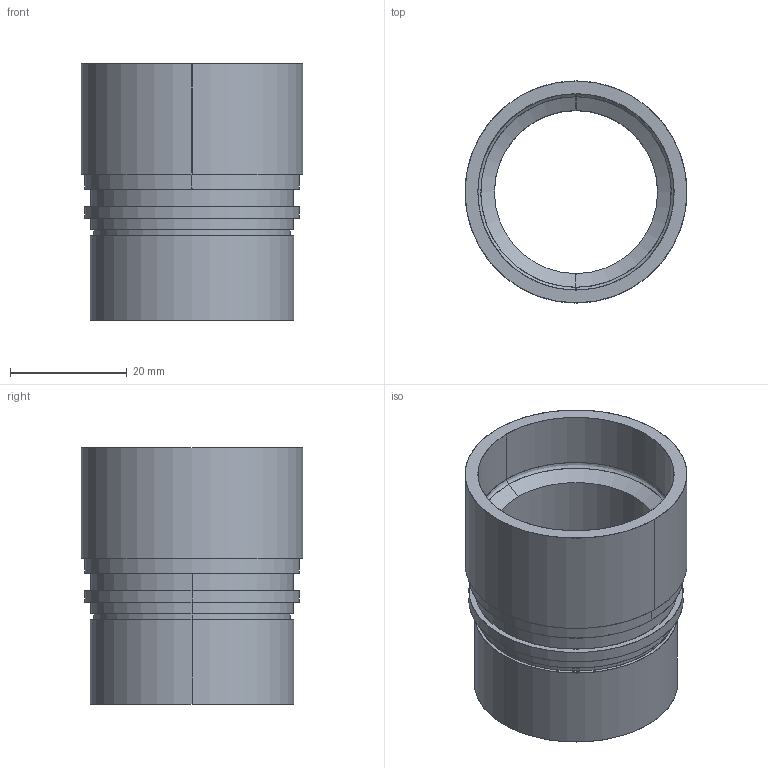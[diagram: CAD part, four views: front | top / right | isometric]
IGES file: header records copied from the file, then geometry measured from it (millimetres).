
Start section: SolidWorks IGES file using analytic representation for surfaces
Global section: file name: Part21^70-31.8R38.1-PH.IGS; native system: SolidWorks 2012; preprocessor: SolidWorks 2012; author: harada; date: 130902.102030; units: millimetre
Bounding box: 38.1 x 38.1 x 44 mm (x, y, z)
Surface area: 10484.9 mm2 (no closed solid volume)
Topology: 0 solids, 0 shells, 33 faces, 1252 edges, 1252 vertices
Faces by surface type: revolution 22, bspline 11
